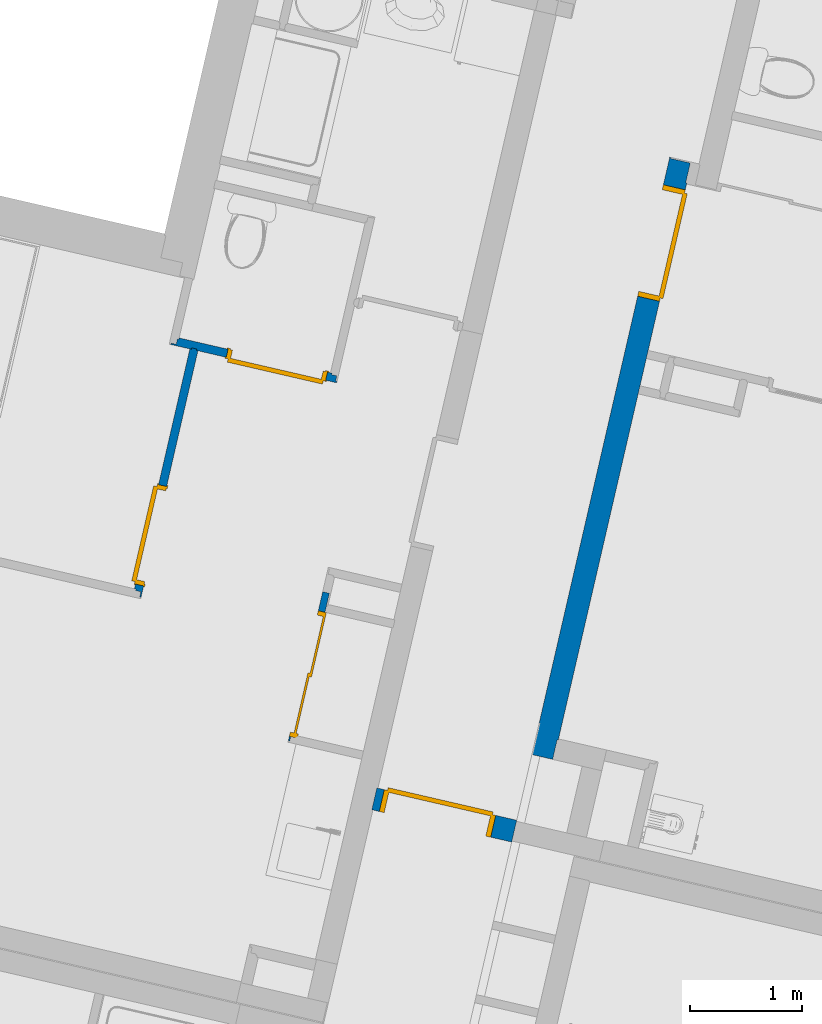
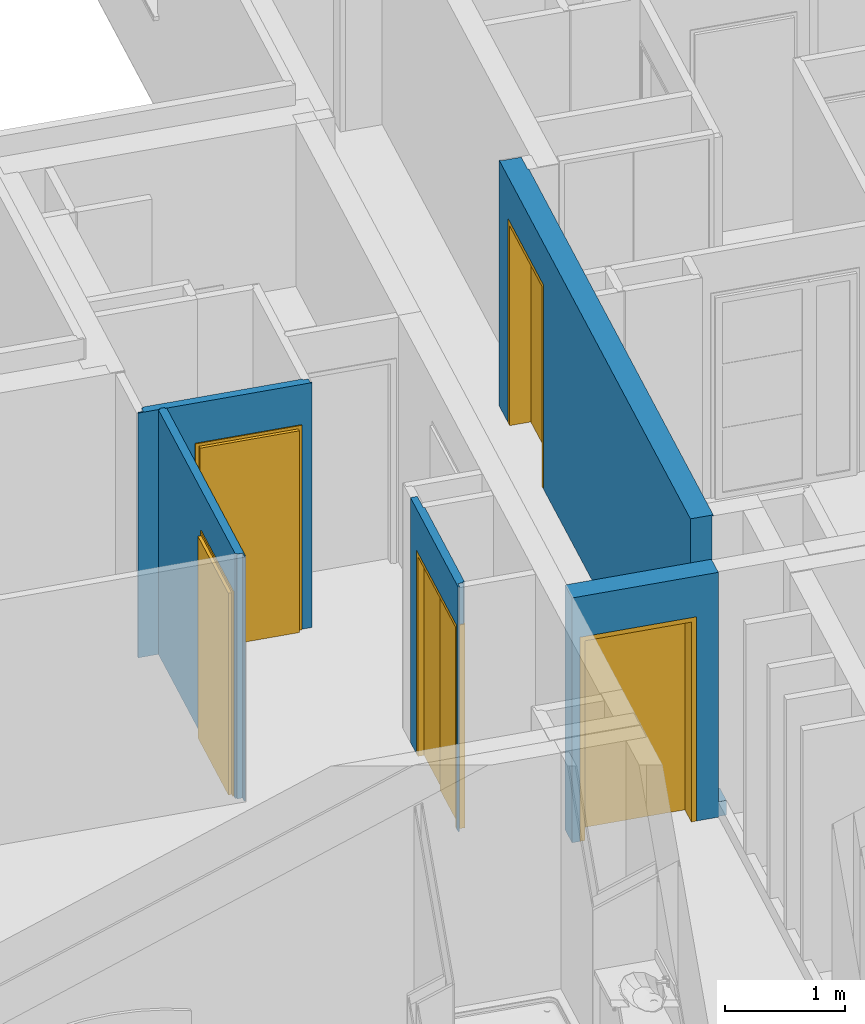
# One storey, part 30 of 90: 5 doors, 5 walls, 5 openings.
"""IFC2X3 building model written with IfcOpenShell, lengths in metres."""

from ifc_helpers import new_model, entity, si_unit, converted_unit, derived_unit, money_unit, direction, frame, origin_with_axes, place, context, subcontext, project, spatial, faceted_brep, source, transform, mapped, material, material_list, type_object, element, fill, save


model = new_model("IFC2X3")

# Units and contexts
model_context = context("Model", 3, precision=1e-05, world=origin_with_axes(), true_north=direction((0.0, 1.0)))
body_context = subcontext(model_context, "Body", "Model", "MODEL_VIEW")
ifc_project = project(units=[si_unit("LENGTHUNIT", "METRE"), si_unit("AREAUNIT", "SQUARE_METRE"), si_unit("VOLUMEUNIT", "CUBIC_METRE"), converted_unit("PLANEANGLEUNIT", "DEGREE", entity("IfcPlaneAngleMeasure", 0.0174532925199), si_unit("PLANEANGLEUNIT", "RADIAN"), dimensions=[0, 0, 0, 0, 0, 0, 0]), si_unit("SOLIDANGLEUNIT", "STERADIAN"), money_unit("EUR"), converted_unit("TIMEUNIT", "Year", entity("IfcTimeMeasure", 31556926.0), si_unit("TIMEUNIT", "SECOND"), dimensions=[0, 0, 1, 0, 0, 0, 0]), si_unit("MASSUNIT", "GRAM", prefix="KILO"), si_unit("THERMODYNAMICTEMPERATUREUNIT", "DEGREE_CELSIUS"), si_unit("LUMINOUSINTENSITYUNIT", "LUMEN"), si_unit("ENERGYUNIT", "JOULE", prefix="MEGA"), derived_unit("THERMALCONDUCTANCEUNIT", [(si_unit("POWERUNIT", "WATT"), 1), (si_unit("LENGTHUNIT", "METRE"), -1), (si_unit("THERMODYNAMICTEMPERATUREUNIT", "KELVIN"), -1)]), derived_unit("SPECIFICHEATCAPACITYUNIT", [(si_unit("ENERGYUNIT", "JOULE"), 1), (si_unit("MASSUNIT", "GRAM", prefix="KILO"), -1), (si_unit("THERMODYNAMICTEMPERATUREUNIT", "KELVIN"), -1)]), derived_unit("MASSDENSITYUNIT", [(si_unit("MASSUNIT", "GRAM", prefix="KILO"), 1), (si_unit("VOLUMEUNIT", "CUBIC_METRE"), -1)])], contexts=[model_context])

# Site, building, storey
site_placement = place(None, origin_with_axes())
site = spatial("IfcSite", under=ifc_project, at=site_placement, Name="Site", CompositionType="ELEMENT")
building_placement = place(site_placement, origin_with_axes())
building = spatial("IfcBuilding", under=site, at=building_placement, Name="Bâtiment", CompositionType="ELEMENT")
storey_placement = place(building_placement, frame((0.0, 0.0, 2.72), z_axis=(0.0, 0.0, 1.0), x_axis=(1.0, 0.0, 0.0)))
storey = spatial("IfcBuildingStorey", under=building, at=storey_placement, Name="R+1", CompositionType="ELEMENT", Elevation=2.72)

# Wall, opening, door
ifc_material_1 = material(Name="Finition int - Plaque de plâtre")
ifc_material_2 = material(Name="Isolation - Laine de roche")
ifc_material_list_1 = material_list([ifc_material_1, ifc_material_2, ifc_material_1])
wall_type_1 = type_object("IfcWallType", Name="3 - Cloison 72mm Placostil 74", PredefinedType="USERDEFINED")
wall_1_placement = place(storey_placement, frame((-11.5279039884, 8.48845740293, 0.0), z_axis=(0.0, 0.0, 1.0), x_axis=(0.97438734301, -0.224876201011, 0.0)))
wall_1 = element("IfcWall", 1, at=wall_1_placement, inside=storey, type_object=wall_type_1, material=ifc_material_list_1, Name="Cloison Placostil 72/48", ObjectType="PARTITIONING", context=body_context, shape_type="Brep", body=[
    faceted_brep([(0.521853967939, 0.074, 2.08), (0.521853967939, 0.074, 0.0), (0.0739999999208, 0.074, 0.0), (0.0739999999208, 0.074, 2.5), (1.47199999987, 0.074, 2.5), (1.47199999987, 0.074, 0.0), (1.43185396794, 0.074, 0.0), (1.43185396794, 0.074, 2.08), (0.521853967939, 0.061, 2.08), (0.521853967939, 0.061, 0.0), (0.0739999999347, 0.061, 0.0), (0.0739999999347, 0.061, 2.5), (1.47199999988, 0.061, 2.5), (1.47199999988, 0.061, 0.0), (1.43185396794, 0.061, 0.0), (1.43185396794, 0.061, 2.08)], [[[0, 1, 2, 3, 4, 5, 6, 7]], [[1, 0, 8, 9]], [[1, 9, 10, 2]], [[2, 10, 11, 3]], [[4, 3, 11, 12]], [[5, 4, 12, 13]], [[14, 6, 5, 13]], [[7, 6, 14, 15]], [[0, 7, 15, 8]], [[15, 14, 13, 12, 11, 10, 9, 8]]]),
    faceted_brep([(0.521853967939, 0.061, 2.08), (0.521853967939, 0.061, 0.0), (0.0609999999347, 0.061, 0.0), (0.0609999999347, 0.061, 2.5), (1.51999999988, 0.061, 2.5), (1.51999999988, 0.061, 0.0), (1.43185396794, 0.061, 0.0), (1.43185396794, 0.061, 2.08), (0.521853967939, 0.013, 2.08), (0.521853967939, 0.013, 0.0), (0.0609999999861, 0.013, 0.0), (0.0609999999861, 0.013, 2.5), (1.5199999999, 0.013, 2.5), (1.5199999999, 0.013, 0.0), (1.43185396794, 0.013, 0.0), (1.43185396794, 0.013, 2.08)], [[[0, 1, 2, 3, 4, 5, 6, 7]], [[1, 0, 8, 9]], [[1, 9, 10, 2]], [[2, 10, 11, 3]], [[4, 3, 11, 12]], [[5, 4, 12, 13]], [[14, 6, 5, 13]], [[7, 6, 14, 15]], [[0, 7, 15, 8]], [[15, 14, 13, 12, 11, 10, 9, 8]]]),
    faceted_brep([(0.202000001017, 0.013, 0.0), (0.202000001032, 0.0, 0.0), (0.013, 0.0, 0.0), (0.0129999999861, 0.013, 0.0), (0.202000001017, 0.013, 2.5), (0.202000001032, 0.0, 2.5), (0.013, 0.0, 2.5), (0.0129999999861, 0.013, 2.5)], [[[0, 1, 2, 3]], [[1, 0, 4, 5]], [[1, 5, 6, 2]], [[7, 3, 2, 6]], [[4, 0, 3, 7]], [[5, 4, 7, 6]]]),
    faceted_brep([(0.521853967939, 0.013, 2.08), (0.521853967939, 0.013, 0.0), (0.250000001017, 0.013, 0.0), (0.250000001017, 0.013, 2.5), (1.5329999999, 0.013, 2.5), (1.5329999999, 0.013, 0.0), (1.43185396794, 0.013, 0.0), (1.43185396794, 0.013, 2.08), (0.521853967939, 0.0, 2.08), (0.521853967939, 0.0, 0.0), (0.250000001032, 0.0, 0.0), (0.250000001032, 0.0, 2.5), (1.53299999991, 0.0, 2.5), (1.53299999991, 0.0, 0.0), (1.43185396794, 0.0, 0.0), (1.43185396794, 0.0, 2.08)], [[[0, 1, 2, 3, 4, 5, 6, 7]], [[1, 0, 8, 9]], [[1, 9, 10, 2]], [[2, 10, 11, 3]], [[4, 3, 11, 12]], [[5, 4, 12, 13]], [[14, 6, 5, 13]], [[7, 6, 14, 15]], [[0, 7, 15, 8]], [[15, 14, 13, 12, 11, 10, 9, 8]]]),
])
opening_1_placement = place(wall_1_placement, frame((0.976853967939, 0.0, 0.0), z_axis=(0.0, 0.0, 1.0), x_axis=(1.0, 0.0, 0.0)))
opening_1 = element("IfcOpeningElement", 2, at=opening_1_placement, cuts=wall_1, Name="Porte 83x204 bois alvéolaire", context=body_context, shape_type="Brep", body=[
    faceted_brep([(-0.455, 0.074, 0.0), (0.455, 0.074, 0.0), (0.455, -0.074, 0.0), (-0.455, -0.074, 0.0), (-0.455, 0.074, 2.08), (0.455, 0.074, 2.08), (0.455, -0.074, 2.08), (-0.455, -0.074, 2.08)], [[[0, 1, 2, 3]], [[0, 4, 5, 1]], [[1, 5, 6, 2]], [[3, 2, 6, 7]], [[4, 0, 3, 7]], [[5, 4, 7, 6]]]),
])
door_style_1 = type_object("IfcDoorStyle", Name="Porte int générique 2019", ConstructionType="NOTDEFINED", OperationType="SINGLE_SWING_RIGHT", ParameterTakesPrecedence=False, Sizeable=False)
shared_shape_1 = source(origin_with_axes(), body_context, "Body", "Brep", [
    faceted_brep([(0.455, 0.0, 0.0), (0.415, 0.0, 0.0), (0.415, 0.0, 2.04), (-0.415, 0.0, 2.04), (-0.415, 0.0, 0.0), (-0.455, 0.0, 0.0), (-0.455, 0.0, 2.08), (0.455, 0.0, 2.08), (0.455, -0.074, 0.0), (0.415, -0.074, 0.0), (0.415, -0.074, 2.04), (-0.415, -0.074, 2.04), (-0.415, -0.074, 0.0), (-0.455, -0.074, 0.0), (-0.455, -0.074, 2.08), (0.455, -0.074, 2.08)], [[[0, 1, 2, 3, 4, 5, 6, 7]], [[0, 8, 9, 1]], [[1, 9, 10, 2]], [[2, 10, 11, 3]], [[3, 11, 12, 4]], [[5, 4, 12, 13]], [[14, 6, 5, 13]], [[15, 7, 6, 14]], [[8, 0, 7, 15]], [[9, 8, 15, 14, 13, 12, 11, 10]]]),
    faceted_brep([(0.465, 0.0, 0.0), (0.465, 0.01, 0.0), (0.465, 0.01, 2.09), (0.465, 0.0, 2.09), (0.435, 0.0, 0.0), (0.435, 0.01, 0.0), (0.435, 0.01, 2.06), (-0.435, 0.01, 2.06), (-0.435, 0.01, 0.0), (-0.465, 0.01, 0.0), (-0.465, 0.01, 2.09), (-0.465, 0.0, 2.09), (-0.465, 0.0, 0.0), (-0.435, 0.0, 0.0), (-0.435, 0.0, 2.06), (0.435, 0.0, 2.06)], [[[0, 1, 2, 3]], [[0, 4, 5, 1]], [[1, 5, 6, 7, 8, 9, 10, 2]], [[3, 2, 10, 11]], [[4, 0, 3, 11, 12, 13, 14, 15]], [[5, 4, 15, 6]], [[6, 15, 14, 7]], [[7, 14, 13, 8]], [[12, 9, 8, 13]], [[11, 10, 9, 12]]]),
    faceted_brep([(0.465, -0.084, 0.0), (0.465, -0.074, 0.0), (0.465, -0.074, 2.09), (0.465, -0.084, 2.09), (0.435, -0.084, 0.0), (0.435, -0.074, 0.0), (0.435, -0.074, 2.06), (-0.435, -0.074, 2.06), (-0.435, -0.074, 0.0), (-0.465, -0.074, 0.0), (-0.465, -0.074, 2.09), (-0.465, -0.084, 2.09), (-0.465, -0.084, 0.0), (-0.435, -0.084, 0.0), (-0.435, -0.084, 2.06), (0.435, -0.084, 2.06)], [[[0, 1, 2, 3]], [[0, 4, 5, 1]], [[1, 5, 6, 7, 8, 9, 10, 2]], [[3, 2, 10, 11]], [[4, 0, 3, 11, 12, 13, 14, 15]], [[5, 4, 15, 6]], [[6, 15, 14, 7]], [[7, 14, 13, 8]], [[12, 9, 8, 13]], [[11, 10, 9, 12]]]),
    faceted_brep([(0.435, 0.04, 0.0), (0.435, 0.0, 0.0), (-0.435, 0.0, 0.0), (-0.435, 0.04, 0.0), (0.435, 0.04, 2.06), (0.435, 0.0, 2.06), (-0.435, 0.0, 2.06), (-0.435, 0.04, 2.06)], [[[0, 1, 2, 3]], [[4, 5, 1, 0]], [[1, 5, 6, 2]], [[3, 2, 6, 7]], [[0, 3, 7, 4]], [[7, 6, 5, 4]]]),
])
door_1_placement = place(opening_1_placement, frame((0.415, 0.0, 0.0), z_axis=(0.0, 0.0, 1.0), x_axis=(-1.0, 0.0, 0.0)))
door_1 = element("IfcDoor", 3, at=door_1_placement, inside=storey, type_object=door_style_1, Name="Porte 83x204 bois alvéolaire", ObjectType="DOOR", OverallHeight=2.04, OverallWidth=0.83, context=body_context, shape_type="MappedRepresentation", body=[
    mapped(shared_shape_1, transform((0.415, 0.0, 0.0))),
])
fill(opening_1, door_1)

wall_2_placement = place(storey_placement, frame((-10.1981851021, 6.11093090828, 0.0), z_axis=(0.0, 0.0, 1.0), x_axis=(-0.22487619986, -0.974387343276, 0.0)))
wall_2 = element("IfcWall", 4, at=wall_2_placement, inside=storey, type_object=wall_type_1, material=ifc_material_list_1, Name="Cloison Placostil 72/48", ObjectType="PARTITIONING", context=body_context, shape_type="Brep", body=[
    faceted_brep([(1.12896282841, 0.0739999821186, 2.08), (-2.88858714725e-10, 0.0739999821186, 2.08), (-2.88859602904e-10, 0.074, 2.5), (1.12896281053, 0.074, 2.5), (-2.88858714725e-10, 0.061, 2.08), (1.12896281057, 0.061, 2.08), (-2.38113972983e-10, 0.061, 2.5), (1.12896281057, 0.061, 2.5)], [[[0, 1, 2, 3]], [[4, 1, 0, 5]], [[1, 4, 6, 2]], [[7, 3, 2, 6]], [[5, 0, 3, 7]], [[4, 5, 7, 6]]]),
    faceted_brep([(-2.88858270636e-10, 0.061, 2.08), (-2.88858270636e-10, 0.0610000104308, 0.0), (-0.174000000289, 0.061, 0.0), (-0.174000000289, 0.061, 2.5), (1.14196281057, 0.061, 2.5), (1.14196281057, 0.061, 2.08), (-2.88858270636e-10, 0.013, 2.08), (-2.88858714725e-10, 0.0130000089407, 0.0), (-0.174000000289, 0.013, 0.0), (-0.174000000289, 0.013, 2.5), (1.14196281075, 0.013, 2.5), (1.14196281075, 0.013, 2.08)], [[[0, 1, 2, 3, 4, 5]], [[1, 0, 6, 7]], [[1, 7, 8, 2]], [[2, 8, 9, 3]], [[10, 4, 3, 9]], [[11, 5, 4, 10]], [[0, 5, 11, 6]], [[6, 11, 10, 9, 8, 7]]]),
    faceted_brep([(1.14999999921, 0.0130000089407, 0.0), (1.14999999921, 0.013, 2.08), (-2.88858270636e-10, 0.013, 2.08), (-2.88858714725e-10, 0.0130000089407, 0.0), (-0.174000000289, 0.013, 0.0), (-0.174000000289, 0.013, 2.5), (1.18996281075, 0.013, 2.5), (1.18996281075, 0.013, 0.0), (1.14999999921, 0.0, 0.0), (1.14999999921, 0.0, 2.08), (-2.88859158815e-10, 0.0, 2.08), (-2.88859158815e-10, 0.0, 0.0), (-0.174000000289, 0.0, 0.0), (-0.174000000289, 0.0, 2.5), (1.1899628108, 0.0, 2.5), (1.1899628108, 0.0, 0.0)], [[[0, 1, 2, 3, 4, 5, 6, 7]], [[1, 0, 8, 9]], [[2, 1, 9, 10]], [[3, 2, 10, 11]], [[3, 11, 12, 4]], [[4, 12, 13, 5]], [[14, 6, 5, 13]], [[7, 6, 14, 15]], [[8, 0, 7, 15]], [[9, 8, 15, 14, 13, 12, 11, 10]]]),
])
opening_2_placement = place(wall_2_placement, frame((0.574999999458, 0.0, 0.0), z_axis=(0.0, 0.0, 1.0), x_axis=(1.0, 0.0, 0.0)))
opening_2 = element("IfcOpeningElement", 5, at=opening_2_placement, cuts=wall_2, Name="Por-002", context=body_context, shape_type="Brep", body=[
    faceted_brep([(-0.574999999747, 0.074, 0.0), (0.574999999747, 0.074, 0.0), (0.574999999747, -0.074, 0.0), (-0.574999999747, -0.074, 0.0), (-0.574999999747, 0.074, 2.08), (0.574999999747, 0.074, 2.08), (0.574999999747, -0.074, 2.08), (-0.574999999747, -0.074, 2.08)], [[[0, 1, 2, 3]], [[0, 4, 5, 1]], [[1, 5, 6, 2]], [[3, 2, 6, 7]], [[4, 0, 3, 7]], [[5, 4, 7, 6]]]),
])
door_style_2 = type_object("IfcDoorStyle", Name="Porte int générique 2019", ConstructionType="NOTDEFINED", OperationType="USERDEFINED", ParameterTakesPrecedence=False, Sizeable=False)
shared_shape_2 = source(origin_with_axes(), body_context, "Body", "Brep", [
    faceted_brep([(-0.574999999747, 0.0, 0.0), (-0.574999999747, 0.0, 2.08), (0.574999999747, 0.0, 2.08), (0.574999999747, 0.0, 0.0), (0.534999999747, 0.0, 0.0), (0.534999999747, 0.0, 2.04), (-0.534999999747, 0.0, 2.04), (-0.534999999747, 0.0, 0.0), (-0.574999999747, -0.074, 0.0), (-0.574999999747, -0.074, 2.08), (0.574999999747, -0.074, 2.08), (0.574999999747, -0.074, 0.0), (0.534999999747, -0.074, 0.0), (0.534999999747, -0.074, 2.04), (-0.534999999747, -0.074, 2.04), (-0.534999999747, -0.074, 0.0)], [[[0, 1, 2, 3, 4, 5, 6, 7]], [[8, 9, 1, 0]], [[9, 10, 2, 1]], [[10, 11, 3, 2]], [[3, 11, 12, 4]], [[5, 4, 12, 13]], [[6, 5, 13, 14]], [[7, 6, 14, 15]], [[0, 7, 15, 8]], [[15, 14, 13, 12, 11, 10, 9, 8]]]),
    faceted_brep([(-0.534999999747, 0.0, 0.0), (0.015, 0.0, 0.0), (0.015, -0.02, 0.0), (-0.534999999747, -0.02, 0.0), (-0.534999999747, 0.0, 2.04), (0.015, 0.0, 2.04), (0.015, -0.02, 2.04), (-0.534999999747, -0.02, 2.04)], [[[0, 1, 2, 3]], [[0, 4, 5, 1]], [[1, 5, 6, 2]], [[3, 2, 6, 7]], [[4, 0, 3, 7]], [[5, 4, 7, 6]]]),
    faceted_brep([(-0.015, -0.02, 0.0), (0.534999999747, -0.02, 0.0), (0.534999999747, -0.04, 0.0), (-0.015, -0.04, 0.0), (-0.015, -0.02, 2.04), (0.534999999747, -0.02, 2.04), (0.534999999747, -0.04, 2.04), (-0.015, -0.04, 2.04)], [[[0, 1, 2, 3]], [[0, 4, 5, 1]], [[1, 5, 6, 2]], [[3, 2, 6, 7]], [[4, 0, 3, 7]], [[5, 4, 7, 6]]]),
])
door_2_placement = place(opening_2_placement, frame((-0.534999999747, 0.0, 0.0), z_axis=(0.0, 0.0, 1.0), x_axis=(1.0, 0.0, 0.0)))
door_2 = element("IfcDoor", 6, at=door_2_placement, inside=storey, type_object=door_style_2, Name="Por-002", ObjectType="DOOR", OverallHeight=2.04, OverallWidth=1.07, context=body_context, shape_type="MappedRepresentation", body=[
    mapped(shared_shape_2, transform((0.534999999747, 0.074, 0.0))),
])
fill(opening_2, door_2)

wall_3_placement = place(storey_placement, frame((-11.781974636, 6.21803828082, 0.0), z_axis=(0.0, 0.0, 1.0), x_axis=(0.224876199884, 0.974387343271, 0.0)))
wall_3 = element("IfcWall", 7, at=wall_3_placement, inside=storey, type_object=wall_type_1, material=ifc_material_list_1, Name="Cloison Placostil 72/48", ObjectType="PARTITIONING", context=body_context, shape_type="Brep", body=[
    faceted_brep([(0.117208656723, 0.061, 0.0), (0.117208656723, 0.061, 2.08), (1.02720865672, 0.061, 2.08), (1.02720865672, 0.061, 0.0), (2.26940209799, 0.061, 0.0), (2.26940209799, 0.061, 2.5), (0.0739999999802, 0.061, 2.5), (0.0739999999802, 0.061, 0.0), (0.117208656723, 0.074, 0.0), (0.117208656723, 0.074, 2.08), (1.02720865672, 0.074, 2.08), (1.02720865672, 0.074, 0.0), (2.26940209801, 0.074, 0.0), (2.26940209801, 0.074, 2.5), (0.073999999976, 0.074, 2.5), (0.073999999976, 0.074, 0.0)], [[[0, 1, 2, 3, 4, 5, 6, 7]], [[1, 0, 8, 9]], [[2, 1, 9, 10]], [[3, 2, 10, 11]], [[3, 11, 12, 4]], [[12, 13, 5, 4]], [[13, 14, 6, 5]], [[15, 7, 6, 14]], [[8, 0, 7, 15]], [[9, 8, 15, 14, 13, 12, 11, 10]]]),
    faceted_brep([(0.117208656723, 0.013, 0.0), (0.117208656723, 0.013, 2.08), (1.02720865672, 0.013, 2.08), (1.02720865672, 0.013, 0.0), (2.28240209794, 0.013, 0.0), (2.28240209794, 0.013, 2.5), (0.0609999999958, 0.013, 2.5), (0.0609999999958, 0.013, 0.0), (0.117208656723, 0.061, 0.0), (0.117208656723, 0.061, 2.08), (1.02720865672, 0.061, 2.08), (1.02720865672, 0.061, 0.0), (2.28240209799, 0.061, 0.0), (2.28240209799, 0.061, 2.5), (0.0609999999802, 0.061, 2.5), (0.0609999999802, 0.061, 0.0)], [[[0, 1, 2, 3, 4, 5, 6, 7]], [[1, 0, 8, 9]], [[2, 1, 9, 10]], [[3, 2, 10, 11]], [[3, 11, 12, 4]], [[12, 13, 5, 4]], [[13, 14, 6, 5]], [[15, 7, 6, 14]], [[8, 0, 7, 15]], [[9, 8, 15, 14, 13, 12, 11, 10]]]),
    faceted_brep([(0.117208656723, 0.0, 0.0), (0.117208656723, 0.0, 2.08), (1.02720865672, 0.0, 2.08), (1.02720865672, 0.0, 0.0), (2.26940209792, 0.0, 0.0), (2.26940209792, 0.0, 2.5), (0.013, 0.0, 2.5), (0.013, 0.0, 0.0), (0.117208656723, 0.013, 0.0), (0.117208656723, 0.013, 2.08), (1.02720865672, 0.013, 2.08), (1.02720865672, 0.013, 0.0), (2.26940209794, 0.013, 0.0), (2.26940209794, 0.013, 2.5), (0.0129999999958, 0.013, 2.5), (0.0129999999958, 0.013, 0.0)], [[[0, 1, 2, 3, 4, 5, 6, 7]], [[1, 0, 8, 9]], [[2, 1, 9, 10]], [[3, 2, 10, 11]], [[3, 11, 12, 4]], [[12, 13, 5, 4]], [[13, 14, 6, 5]], [[15, 7, 6, 14]], [[8, 0, 7, 15]], [[9, 8, 15, 14, 13, 12, 11, 10]]]),
])
opening_3_placement = place(wall_3_placement, frame((0.572208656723, 0.0, 0.0), z_axis=(0.0, 0.0, 1.0), x_axis=(1.0, 0.0, 0.0)))
opening_3 = element("IfcOpeningElement", 8, at=opening_3_placement, cuts=wall_3, Name="Porte 83x204 bois alvéolaire", context=body_context, shape_type="Brep", body=[
    faceted_brep([(-0.455, 0.074, 0.0), (0.455, 0.074, 0.0), (0.455, -0.074, 0.0), (-0.455, -0.074, 0.0), (-0.455, 0.074, 2.08), (0.455, 0.074, 2.08), (0.455, -0.074, 2.08), (-0.455, -0.074, 2.08)], [[[0, 1, 2, 3]], [[0, 4, 5, 1]], [[1, 5, 6, 2]], [[3, 2, 6, 7]], [[4, 0, 3, 7]], [[5, 4, 7, 6]]]),
])
door_style_3 = type_object("IfcDoorStyle", Name="Porte int générique 2019", ConstructionType="NOTDEFINED", OperationType="SINGLE_SWING_LEFT", ParameterTakesPrecedence=False, Sizeable=False)
shared_shape_3 = source(origin_with_axes(), body_context, "Body", "Brep", [
    faceted_brep([(-0.455, -0.006, 0.0), (-0.455, -0.006, 2.08), (0.455, -0.006, 2.08), (0.455, -0.006, 0.0), (0.415, -0.006, 0.0), (0.415, -0.006, 2.04), (-0.415, -0.006, 2.04), (-0.415, -0.006, 0.0), (-0.455, -0.08, 0.0), (-0.455, -0.08, 2.08), (0.455, -0.08, 2.08), (0.455, -0.08, 0.0), (0.415, -0.08, 0.0), (0.415, -0.08, 2.04), (-0.415, -0.08, 2.04), (-0.415, -0.08, 0.0)], [[[0, 1, 2, 3, 4, 5, 6, 7]], [[8, 9, 1, 0]], [[9, 10, 2, 1]], [[10, 11, 3, 2]], [[3, 11, 12, 4]], [[5, 4, 12, 13]], [[6, 5, 13, 14]], [[7, 6, 14, 15]], [[0, 7, 15, 8]], [[15, 14, 13, 12, 11, 10, 9, 8]]]),
    faceted_brep([(-0.465, -0.006, 0.0), (-0.465, -0.006, 2.09), (-0.465, 0.004, 2.09), (-0.465, 0.004, 0.0), (-0.435, -0.006, 0.0), (-0.435, -0.006, 2.06), (0.435, -0.006, 2.06), (0.435, -0.006, 0.0), (0.465, -0.006, 0.0), (0.465, -0.006, 2.09), (0.465, 0.004, 2.09), (0.465, 0.004, 0.0), (0.435, 0.004, 0.0), (0.435, 0.004, 2.06), (-0.435, 0.004, 2.06), (-0.435, 0.004, 0.0)], [[[0, 1, 2, 3]], [[4, 5, 6, 7, 8, 9, 1, 0]], [[1, 9, 10, 2]], [[3, 2, 10, 11, 12, 13, 14, 15]], [[0, 3, 15, 4]], [[15, 14, 5, 4]], [[14, 13, 6, 5]], [[13, 12, 7, 6]], [[8, 7, 12, 11]], [[9, 8, 11, 10]]]),
    faceted_brep([(-0.465, -0.09, 0.0), (-0.465, -0.09, 2.09), (-0.465, -0.08, 2.09), (-0.465, -0.08, 0.0), (-0.435, -0.09, 0.0), (-0.435, -0.09, 2.06), (0.435, -0.09, 2.06), (0.435, -0.09, 0.0), (0.465, -0.09, 0.0), (0.465, -0.09, 2.09), (0.465, -0.08, 2.09), (0.465, -0.08, 0.0), (0.435, -0.08, 0.0), (0.435, -0.08, 2.06), (-0.435, -0.08, 2.06), (-0.435, -0.08, 0.0)], [[[0, 1, 2, 3]], [[4, 5, 6, 7, 8, 9, 1, 0]], [[1, 9, 10, 2]], [[3, 2, 10, 11, 12, 13, 14, 15]], [[0, 3, 15, 4]], [[15, 14, 5, 4]], [[14, 13, 6, 5]], [[13, 12, 7, 6]], [[8, 7, 12, 11]], [[9, 8, 11, 10]]]),
    faceted_brep([(-0.435, 0.034, 0.0), (0.435, 0.034, 0.0), (0.435, -0.006, 0.0), (-0.435, -0.006, 0.0), (-0.435, 0.034, 2.06), (0.435, 0.034, 2.06), (0.435, -0.006, 2.06), (-0.435, -0.006, 2.06)], [[[0, 1, 2, 3]], [[0, 4, 5, 1]], [[1, 5, 6, 2]], [[3, 2, 6, 7]], [[4, 0, 3, 7]], [[5, 4, 7, 6]]]),
])
door_3_placement = place(opening_3_placement, frame((-0.415, 0.0, 0.0), z_axis=(0.0, 0.0, 1.0), x_axis=(1.0, 0.0, 0.0)))
door_3 = element("IfcDoor", 9, at=door_3_placement, inside=storey, type_object=door_style_3, Name="Porte 83x204 bois alvéolaire", ObjectType="DOOR", OverallHeight=2.04, OverallWidth=0.83, context=body_context, shape_type="MappedRepresentation", body=[
    mapped(shared_shape_3, transform((0.415, 0.08, 0.0))),
])
fill(opening_3, door_3)

ifc_material_3 = material(Name="Finition int - Enduit plâtre")
ifc_material_4 = material(Name="Béton")
ifc_material_list_2 = material_list([ifc_material_3, ifc_material_4, ifc_material_3])
wall_type_2 = type_object("IfcWallType", Name="2 - Murs Béton 18 + Enduit 2 Faces 200", PredefinedType="USERDEFINED")
wall_4_placement = place(storey_placement, frame((-7.06380078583, 10.1563296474, 0.0), z_axis=(0.0, 0.0, 1.0), x_axis=(-0.224876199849, -0.974387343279, 0.0)))
wall_4 = element("IfcWall", 10, at=wall_4_placement, inside=storey, type_object=wall_type_2, material=ifc_material_list_2, Name="M_Ext-008", ObjectType="SOLIDWALL", context=body_context, shape_type="Brep", body=[
    faceted_brep([(1.27327527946, 0.2, 0.0), (1.27327527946, 0.2, 2.085), (0.253275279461, 0.2, 2.085), (0.253275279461, 0.2, 0.0), (0.189999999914, 0.2, 0.0), (0.189999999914, 0.2, 2.51), (5.46837764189, 0.2, 2.51), (5.46837764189, 0.2, 2.5), (5.28837764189, 0.2, 2.5), (5.28837764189, 0.2, 0.0), (1.27327527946, 0.19, 0.0), (1.27327527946, 0.19, 2.085), (0.253275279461, 0.19, 2.085), (0.253275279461, 0.19, 0.0), (0.189999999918, 0.19, 0.0), (0.189999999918, 0.19, 2.51), (5.46837764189, 0.19, 2.51), (5.46837764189, 0.19, 2.5), (5.28837764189, 0.19, 2.5), (5.28837764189, 0.19, 0.0)], [[[0, 1, 2, 3, 4, 5, 6, 7, 8, 9]], [[1, 0, 10, 11]], [[2, 1, 11, 12]], [[3, 2, 12, 13]], [[3, 13, 14, 4]], [[5, 4, 14, 15]], [[15, 16, 6, 5]], [[17, 7, 6, 16]], [[8, 7, 17, 18]], [[19, 9, 8, 18]], [[10, 0, 9, 19]], [[11, 10, 19, 18, 17, 16, 15, 14, 13, 12]]]),
    faceted_brep([(1.27327527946, 0.19, 0.0), (1.27327527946, 0.19, 2.085), (0.253275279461, 0.19, 2.085), (0.253275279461, 0.19, 0.0), (0.00999999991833, 0.19, 0.0), (0.00999999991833, 0.19, 2.51), (5.46837764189, 0.19, 2.51), (5.46837764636, 0.19, 2.5), (5.46837764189, 0.19, 0.150000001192), (5.46837764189, 0.19, 0.0), (1.27327527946, 0.01, 0.0), (1.27327527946, 0.01, 2.085), (0.253275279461, 0.01, 2.085), (0.253275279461, 0.01, 0.0), (0.0099999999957, 0.01, 0.0), (0.0099999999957, 0.01, 2.51), (5.46837764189, 0.01, 2.51), (5.46837764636, 0.01, 2.5), (5.46837764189, 0.01, 0.150000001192), (5.46837764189, 0.01, 0.0)], [[[0, 1, 2, 3, 4, 5, 6, 7, 8, 9]], [[1, 0, 10, 11]], [[2, 1, 11, 12]], [[3, 2, 12, 13]], [[3, 13, 14, 4]], [[5, 4, 14, 15]], [[15, 16, 6, 5]], [[16, 17, 7, 6]], [[17, 18, 8, 7]], [[19, 9, 8, 18]], [[10, 0, 9, 19]], [[11, 10, 19, 18, 17, 16, 15, 14, 13, 12]]]),
    faceted_brep([(1.27327527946, 0.01, 0.0), (1.27327527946, 0.01, 2.085), (0.253275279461, 0.01, 2.085), (0.253275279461, 0.01, 0.0), (0.0, 0.01, 0.0), (0.0, 0.01, 2.51), (5.46837764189, 0.01, 2.51), (5.46837764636, 0.01, 2.5), (5.46837764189, 0.01, 0.15), (5.17837764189, 0.01, 0.15), (5.17837764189, 0.01, 0.0), (1.27327527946, -3.33102434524e-10, 0.0), (1.27327527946, -1.35471545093e-09, 2.085), (0.253275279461, -1.35471722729e-09, 2.085), (0.253275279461, 0.0, 0.0), (0.0, 0.0, 0.0), (0.0, 0.0, 2.51), (5.46837764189, 0.0, 2.51), (5.46837764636, 0.0, 2.5), (5.46837764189, -1.3552394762e-09, 0.15), (5.17837764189, -1.35471722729e-09, 0.15), (5.17837764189, -1.35471722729e-09, 0.0)], [[[0, 1, 2, 3, 4, 5, 6, 7, 8, 9, 10]], [[1, 0, 11, 12]], [[2, 1, 12, 13]], [[3, 2, 13, 14]], [[3, 14, 15, 4]], [[5, 4, 15, 16]], [[16, 17, 6, 5]], [[17, 18, 7, 6]], [[19, 8, 7, 18]], [[9, 8, 19, 20]], [[10, 9, 20, 21]], [[11, 0, 10, 21]], [[12, 11, 21, 20, 19, 18, 17, 16, 15, 14, 13]]]),
])
opening_4_placement = place(wall_4_placement, frame((0.763275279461, 0.0, 0.0), z_axis=(0.0, 0.0, 1.0), x_axis=(1.0, 0.0, 0.0)))
opening_4 = element("IfcOpeningElement", 11, at=opening_4_placement, cuts=wall_4, Name="Porte 93x204 bois blindée", context=body_context, shape_type="Brep", body=[
    faceted_brep([(-0.51, 0.2, 0.0), (0.51, 0.2, 0.0), (0.51, -0.2, 0.0), (-0.51, -0.2, 0.0), (-0.51, 0.2, 2.085), (0.51, 0.2, 2.085), (0.51, -0.2, 2.085), (-0.51, -0.2, 2.085)], [[[0, 1, 2, 3]], [[0, 4, 5, 1]], [[1, 5, 6, 2]], [[3, 2, 6, 7]], [[4, 0, 3, 7]], [[5, 4, 7, 6]]]),
])
door_style_4 = type_object("IfcDoorStyle", Name="Porte int générique 2019", ConstructionType="NOTDEFINED", OperationType="SINGLE_SWING_LEFT", ParameterTakesPrecedence=False, Sizeable=False)
shared_shape_4 = source(origin_with_axes(), body_context, "Body", "Brep", [
    faceted_brep([(-0.51, 0.0, 0.0), (-0.51, 0.0, 2.085), (0.51, 0.0, 2.085), (0.51, 0.0, 0.0), (0.48, 0.0, 0.0), (0.48, 0.0, 2.055), (-0.48, 0.0, 2.055), (-0.48, 0.0, 0.0), (-0.51, -0.2, 0.0), (-0.51, -0.2, 2.085), (0.51, -0.2, 2.085), (0.51, -0.2, 0.0), (0.465, -0.2, 0.0), (0.465, -0.015, 0.0), (0.48, -0.015, 0.0), (0.48, -0.015, 2.055), (-0.48, -0.015, 2.055), (-0.48, -0.015, 0.0), (-0.465, -0.015, 0.0), (-0.465, -0.2, 0.0), (-0.465, -0.2, 2.04), (0.465, -0.2, 2.04), (0.465, -0.015, 2.04), (-0.465, -0.015, 2.04)], [[[0, 1, 2, 3, 4, 5, 6, 7]], [[8, 9, 1, 0]], [[9, 10, 2, 1]], [[10, 11, 3, 2]], [[3, 11, 12, 13, 14, 4]], [[5, 4, 14, 15]], [[6, 5, 15, 16]], [[7, 6, 16, 17]], [[0, 7, 17, 18, 19, 8]], [[19, 20, 21, 12, 11, 10, 9, 8]], [[22, 13, 12, 21]], [[17, 16, 15, 14, 13, 22, 23, 18]], [[18, 23, 20, 19]], [[23, 22, 21, 20]]]),
    faceted_brep([(-0.48, 0.025, 0.0), (0.48, 0.025, 0.0), (0.48, -0.015, 0.0), (-0.48, -0.015, 0.0), (-0.48, 0.025, 2.055), (0.48, 0.025, 2.055), (0.48, -0.015, 2.055), (-0.48, -0.015, 2.055)], [[[0, 1, 2, 3]], [[0, 4, 5, 1]], [[1, 5, 6, 2]], [[3, 2, 6, 7]], [[4, 0, 3, 7]], [[5, 4, 7, 6]]]),
])
door_4_placement = place(opening_4_placement, frame((-0.465, 0.0, 0.0), z_axis=(0.0, 0.0, 1.0), x_axis=(1.0, 0.0, 0.0)))
door_4 = element("IfcDoor", 12, at=door_4_placement, inside=storey, type_object=door_style_4, Name="Porte 93x204 bois blindée", ObjectType="DOOR", OverallHeight=2.04, OverallWidth=0.93, context=body_context, shape_type="MappedRepresentation", body=[
    mapped(shared_shape_4, transform((0.465, 0.2, 0.0))),
])
fill(opening_4, door_4)

wall_5_placement = place(storey_placement, frame((-8.47351669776, 4.04803831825, 0.0), z_axis=(0.0, 0.0, 1.0), x_axis=(-0.974387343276, 0.224876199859, 0.0)))
wall_5 = element("IfcWall", 13, at=wall_5_placement, inside=storey, type_object=wall_type_2, material=ifc_material_list_2, Name="M_Ext-008", ObjectType="SOLIDWALL", context=body_context, shape_type="Brep", body=[
    faceted_brep([(1.21205429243, -0.01, 2.085), (1.21205429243, -0.01, 0.0), (1.28039051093, -0.01, 0.0), (1.28039051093, -0.01, 2.5), (0.0, -0.01, 2.5), (0.0, -0.01, 0.15), (0.0, -0.01, 0.0), (0.19205429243, -0.01, 0.0), (0.19205429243, -0.01, 2.085), (1.21205429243, 0.0, 2.085), (1.21205429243, 0.0, 0.0), (1.28039051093, 0.0, 0.0), (1.28039051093, 0.0, 2.5), (0.0, -8.19564593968e-09, 2.5), (0.0, -8.19564593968e-09, 0.15), (0.0, 0.0, 0.0), (0.19205429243, 0.0, 0.0), (0.19205429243, 0.0, 2.085)], [[[0, 1, 2, 3, 4, 5, 6, 7, 8]], [[1, 0, 9, 10]], [[1, 10, 11, 2]], [[11, 12, 3, 2]], [[12, 13, 4, 3]], [[14, 5, 4, 13]], [[6, 5, 14, 15]], [[16, 7, 6, 15]], [[8, 7, 16, 17]], [[0, 8, 17, 9]], [[17, 16, 15, 14, 13, 12, 11, 10, 9]]]),
    faceted_brep([(1.21205429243, -0.19, 2.085), (1.21205429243, -0.19, 0.0), (1.28039051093, -0.19, 0.0), (1.28039051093, -0.19, 2.5), (0.0, -0.19, 2.5), (0.0, -0.19, 0.15), (-0.0739999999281, -0.19, 0.15), (-0.0739999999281, -0.19, 0.0), (0.19205429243, -0.19, 0.0), (0.19205429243, -0.19, 2.085), (1.21205429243, -0.01, 2.085), (1.21205429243, -0.01, 0.0), (1.28039051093, -0.01, 0.0), (1.28039051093, -0.01, 2.5), (0.0, -0.01, 2.5), (0.0, -0.01, 0.15), (-0.0739999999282, -0.01, 0.15), (-0.0739999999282, -0.01, 0.0), (0.19205429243, -0.01, 0.0), (0.19205429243, -0.01, 2.085)], [[[0, 1, 2, 3, 4, 5, 6, 7, 8, 9]], [[1, 0, 10, 11]], [[1, 11, 12, 2]], [[13, 3, 2, 12]], [[14, 4, 3, 13]], [[5, 4, 14, 15]], [[16, 6, 5, 15]], [[7, 6, 16, 17]], [[18, 8, 7, 17]], [[9, 8, 18, 19]], [[0, 9, 19, 10]], [[19, 18, 17, 16, 15, 14, 13, 12, 11, 10]]]),
    faceted_brep([(1.21205429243, -0.2, 2.085), (1.21205429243, -0.2, 0.0), (1.28039051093, -0.2, 0.0), (1.28039051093, -0.2, 2.5), (0.0, -0.2, 2.5), (0.0, -0.2, 0.15), (-0.0739999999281, -0.2, 0.15), (-0.0739999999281, -0.2, 0.0), (0.19205429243, -0.2, 0.0), (0.19205429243, -0.2, 2.085), (1.21205429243, -0.19, 2.085), (1.21205429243, -0.19, 0.0), (1.28039051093, -0.19, 0.0), (1.28039051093, -0.19, 2.5), (0.0, -0.19, 2.5), (0.0, -0.19, 0.15), (-0.0739999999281, -0.19, 0.15), (-0.0739999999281, -0.19, 0.0), (0.19205429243, -0.19, 0.0), (0.19205429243, -0.19, 2.085)], [[[0, 1, 2, 3, 4, 5, 6, 7, 8, 9]], [[1, 0, 10, 11]], [[1, 11, 12, 2]], [[12, 13, 3, 2]], [[13, 14, 4, 3]], [[15, 5, 4, 14]], [[15, 16, 6, 5]], [[17, 7, 6, 16]], [[18, 8, 7, 17]], [[9, 8, 18, 19]], [[0, 9, 19, 10]], [[19, 18, 17, 16, 15, 14, 13, 12, 11, 10]]]),
])
opening_5_placement = place(wall_5_placement, frame((0.70205429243, 0.0, 0.0), z_axis=(0.0, 0.0, 1.0), x_axis=(1.0, 0.0, 0.0)))
opening_5 = element("IfcOpeningElement", 14, at=opening_5_placement, cuts=wall_5, Name="Porte 93x204 bois CF", context=body_context, shape_type="Brep", body=[
    faceted_brep([(0.51, -0.2, 0.0), (-0.51, -0.2, 0.0), (-0.51, 0.2, 0.0), (0.51, 0.2, 0.0), (0.51, -0.2, 2.085), (-0.51, -0.2, 2.085), (-0.51, 0.2, 2.085), (0.51, 0.2, 2.085)], [[[0, 1, 2, 3]], [[0, 4, 5, 1]], [[1, 5, 6, 2]], [[3, 2, 6, 7]], [[4, 0, 3, 7]], [[5, 4, 7, 6]]]),
])
door_5_placement = place(opening_5_placement, frame((0.465, 0.0, 0.0), z_axis=(0.0, 0.0, 1.0), x_axis=(-1.0, 0.0, 0.0)))
door_5 = element("IfcDoor", 15, at=door_5_placement, inside=storey, type_object=door_style_4, Name="Porte 93x204 bois CF", ObjectType="DOOR", OverallHeight=2.04, OverallWidth=0.93, context=body_context, shape_type="MappedRepresentation", body=[
    mapped(shared_shape_4, transform((0.465, 0.2, 0.0))),
])
fill(opening_5, door_5)

save(model, "model.ifc")
